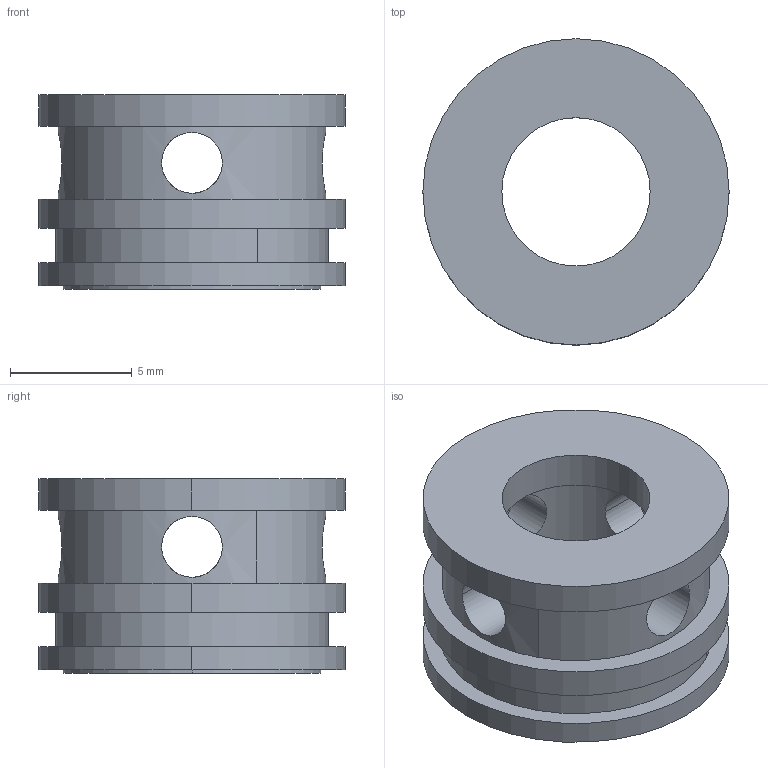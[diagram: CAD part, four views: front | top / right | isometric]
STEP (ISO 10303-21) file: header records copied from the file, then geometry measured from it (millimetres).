
FILE_DESCRIPTION(('CATIA V5 STEP Exchange'),'2;1');
FILE_NAME('C:\Users\Administrator\Desktop\LS42.17_V1 支撑圈C.stp','2020-04-02T01:50:42+00:00',('none'),('none'),'CATIA Version 5 Release 21 GA (IN-10)','CATIA V5 STEP AP214','none');
FILE_SCHEMA(('AUTOMOTIVE_DESIGN { 1 0 10303 214 1 1 1 1 }'));
Length unit declared in the file: millimetre
Products named in the file (1): Copy (1) of 支撑圈A
Bounding box: 12.6 x 12.6 x 8 mm (x, y, z)
Volume: 524.2 mm3; surface area: 802.2 mm2
Topology: 1 solids, 1 shells, 35 faces, 88 edges, 60 vertices
Faces by surface type: cylinder 26, plane 9
Entity records: 1097 total; most frequent: CARTESIAN_POINT 313, ORIENTED_EDGE 176, DIRECTION 104, EDGE_CURVE 88, VERTEX_POINT 60, AXIS2_PLACEMENT_3D 57, EDGE_LOOP 50, CIRCLE 36
